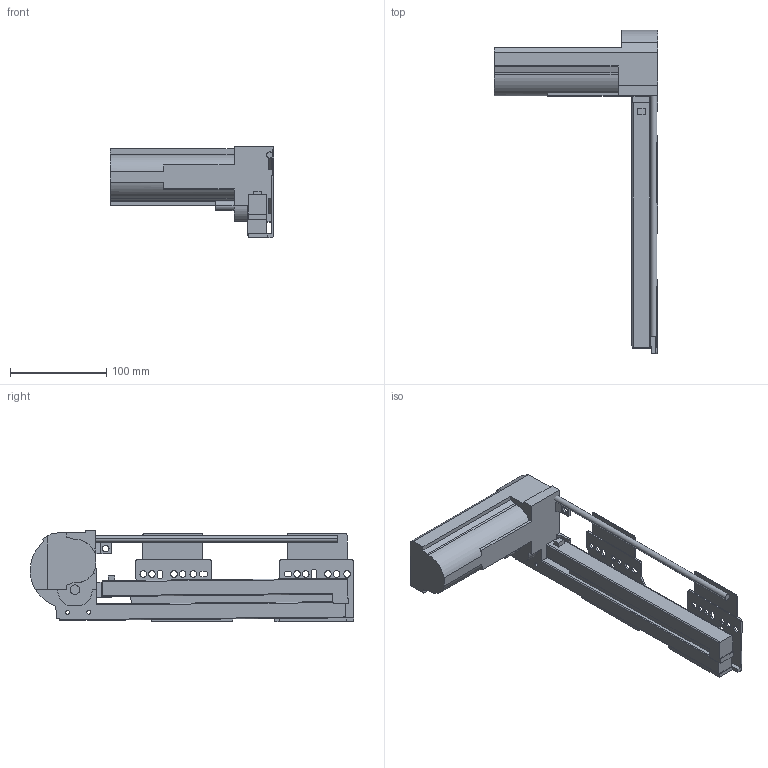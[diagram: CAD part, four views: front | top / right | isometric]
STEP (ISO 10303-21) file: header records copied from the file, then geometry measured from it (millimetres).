
FILE_DESCRIPTION (( 'STEP AP214' ), '1' );
FILE_NAME ('_IMOS_NOVA-Pro_Sensotronic_KS_P904_RE_NL-270_EB29mm.step', '2010-07-23T08:19:55', ( 'grass' ), ( '' ), 'SwSTEP 2.0', 'SolidWorks 2009', '' );
FILE_SCHEMA (( 'AUTOMOTIVE_DESIGN' ));
Length unit declared in the file: millimetre
Products named in the file (1): _IMOS_NOVA-Pro_Sensotronic_KS_P904_RE_NL-270_EB29mm
Bounding box: 169.95 x 336.63 x 94.97 mm (x, y, z)
Volume: 715241.5 mm3; surface area: 124724.8 mm2
Topology: 3 solids, 3 shells, 194 faces, 554 edges, 368 vertices
Faces by surface type: plane 119, cylinder 75
Entity records: 6477 total; most frequent: CARTESIAN_POINT 1129, ORIENTED_EDGE 1108, DIRECTION 1095, EDGE_CURVE 554, LINE 395, VECTOR 395, VERTEX_POINT 368, AXIS2_PLACEMENT_3D 350
